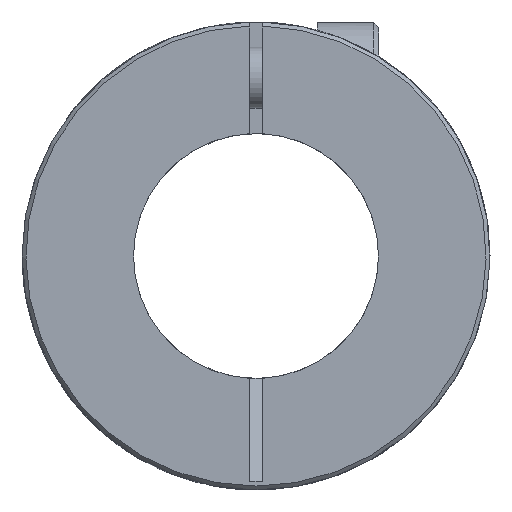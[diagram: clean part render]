
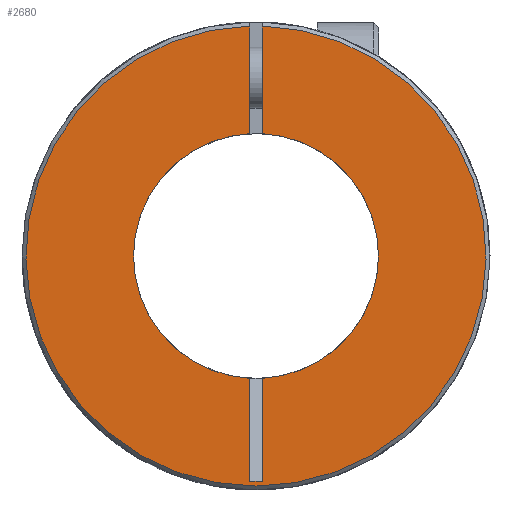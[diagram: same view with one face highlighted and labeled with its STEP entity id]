
A CAD part, front view. The second image highlights one B-rep face of the part: STEP entity #2680.
In plain terms, the highlighted planar face has unit normal (0, -1, 0).
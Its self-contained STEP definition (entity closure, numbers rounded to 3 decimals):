
#1=DIRECTION('',(0.,0.,-1.));
#2=VECTOR('',#1,4.393);
#3=CARTESIAN_POINT('',(-0.25,-13.25,9.387));
#4=LINE('',#3,#2);
#5=CARTESIAN_POINT('',(0.,-13.25,0.));
#6=DIRECTION('',(0.,1.,0.));
#7=DIRECTION('',(-1.,0.,0.));
#8=AXIS2_PLACEMENT_3D('',#5,#6,#7);
#10=CARTESIAN_POINT('',(0.,-13.25,0.));
#11=DIRECTION('',(0.,1.,0.));
#12=DIRECTION('',(-0.05,0.,-0.999));
#13=AXIS2_PLACEMENT_3D('',#10,#11,#12);
#15=DIRECTION('',(0.,0.,-1.));
#16=VECTOR('',#15,4.206);
#17=CARTESIAN_POINT('',(-0.25,-13.25,-4.994));
#18=LINE('',#17,#16);
#19=DIRECTION('',(1.,0.,0.));
#20=VECTOR('',#19,0.5);
#21=CARTESIAN_POINT('',(-0.25,-13.25,-9.2));
#22=LINE('',#21,#20);
#23=DIRECTION('',(0.,0.,-1.));
#24=VECTOR('',#23,4.206);
#25=CARTESIAN_POINT('',(0.25,-13.25,-4.994));
#26=LINE('',#25,#24);
#27=DIRECTION('',(0.,0.,-1.));
#28=VECTOR('',#27,4.393);
#29=CARTESIAN_POINT('',(0.25,-13.25,9.387));
#30=LINE('',#29,#28);
#54=CARTESIAN_POINT('',(0.,-13.25,0.));
#55=DIRECTION('',(0.,1.,0.));
#56=DIRECTION('',(0.05,0.,0.999));
#57=AXIS2_PLACEMENT_3D('',#54,#55,#56);
#2237=CARTESIAN_POINT('',(0.,-13.25,0.));
#2238=DIRECTION('',(0.,-1.,0.));
#2239=DIRECTION('',(-0.027,0.,1.));
#2240=AXIS2_PLACEMENT_3D('',#2237,#2238,#2239);
#2353=CARTESIAN_POINT('',(-5.,-13.25,0.));
#2354=VERTEX_POINT('',#2353);
#2430=CARTESIAN_POINT('',(-0.25,-13.25,-9.2));
#2432=VERTEX_POINT('',#2430);
#2434=CARTESIAN_POINT('',(0.25,-13.25,-9.2));
#2436=VERTEX_POINT('',#2434);
#2483=CARTESIAN_POINT('',(-0.25,-13.25,9.387));
#2484=CARTESIAN_POINT('',(-0.25,-13.25,4.994));
#2485=VERTEX_POINT('',#2483);
#2486=VERTEX_POINT('',#2484);
#2487=CARTESIAN_POINT('',(-0.25,-13.25,-4.994));
#2488=VERTEX_POINT('',#2487);
#2489=CARTESIAN_POINT('',(0.25,-13.25,9.387));
#2490=CARTESIAN_POINT('',(0.25,-13.25,4.994));
#2491=VERTEX_POINT('',#2489);
#2492=VERTEX_POINT('',#2490);
#2493=CARTESIAN_POINT('',(0.25,-13.25,-4.994));
#2494=VERTEX_POINT('',#2493);
#2655=CARTESIAN_POINT('',(0.,-13.25,0.));
#2656=DIRECTION('',(0.,1.,0.));
#2657=DIRECTION('',(1.,0.,0.));
#2658=AXIS2_PLACEMENT_3D('',#2655,#2656,#2657);
#2659=PLANE('',#2658);
#2661=ORIENTED_EDGE('',*,*,#2660,.T.);
#2663=ORIENTED_EDGE('',*,*,#2662,.F.);
#2665=ORIENTED_EDGE('',*,*,#2664,.F.);
#2667=ORIENTED_EDGE('',*,*,#2666,.T.);
#2669=ORIENTED_EDGE('',*,*,#2668,.T.);
#2671=ORIENTED_EDGE('',*,*,#2670,.F.);
#2673=ORIENTED_EDGE('',*,*,#2672,.F.);
#2675=ORIENTED_EDGE('',*,*,#2674,.F.);
#2677=ORIENTED_EDGE('',*,*,#2676,.F.);
#2678=EDGE_LOOP('',(#2661,#2663,#2665,#2667,#2669,#2671,#2673,#2675,#2677));
#2679=FACE_OUTER_BOUND('',#2678,.F.);
#2680=ADVANCED_FACE('',(#2679),#2659,.F.);
#9=CIRCLE('',#8,5.);
#14=CIRCLE('',#13,5.);
#58=CIRCLE('',#57,5.);
#2241=CIRCLE('',#2240,9.39);
#2660=EDGE_CURVE('',#2485,#2486,#4,.T.);
#2662=EDGE_CURVE('',#2354,#2486,#9,.T.);
#2664=EDGE_CURVE('',#2488,#2354,#14,.T.);
#2666=EDGE_CURVE('',#2488,#2432,#18,.T.);
#2668=EDGE_CURVE('',#2432,#2436,#22,.T.);
#2670=EDGE_CURVE('',#2494,#2436,#26,.T.);
#2672=EDGE_CURVE('',#2492,#2494,#58,.T.);
#2674=EDGE_CURVE('',#2491,#2492,#30,.T.);
#2676=EDGE_CURVE('',#2485,#2491,#2241,.T.);
